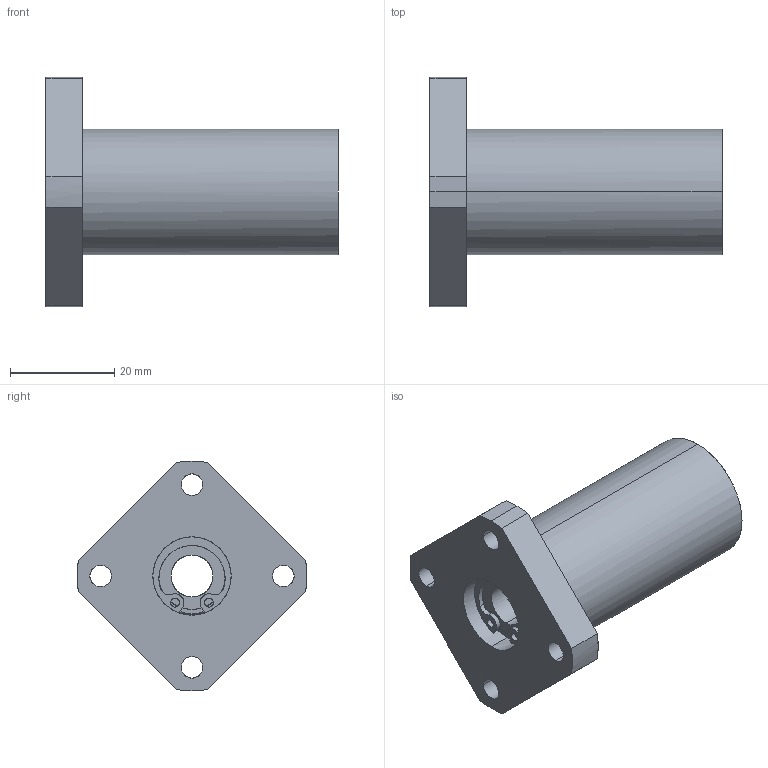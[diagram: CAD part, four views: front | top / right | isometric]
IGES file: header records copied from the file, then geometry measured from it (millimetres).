
Global section: file name: No Iges File Name specified; native system: AutoDesk Inventor R10; preprocessor: AutoDesk Inventor Iges Exporter R10; author: No Author specified; organization: No Organization specified; date: 20101214.135531; units: millimetre
Bounding box: 56 x 44 x 44 mm (x, y, z)
Surface area: 9780.6 mm2 (no closed solid volume)
Topology: 0 solids, 0 shells, 119 faces, 864 edges, 864 vertices
Faces by surface type: bspline 119
